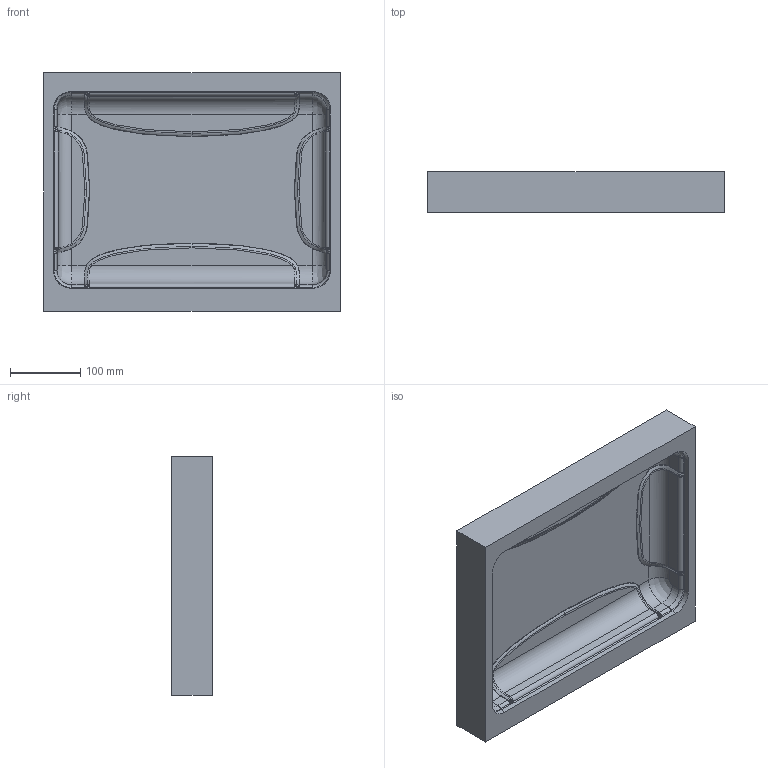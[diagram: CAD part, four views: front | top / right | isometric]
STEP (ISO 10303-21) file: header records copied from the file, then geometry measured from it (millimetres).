
FILE_DESCRIPTION (( 'STEP AP203' ), '1' );
FILE_NAME ('920_Top.STEP', '2012-01-23T22:18:03', ( 'Ben laptop' ), ( 'Microsoft' ), 'SwSTEP 2.0', 'SolidWorks 2011', '' );
FILE_SCHEMA (( 'CONFIG_CONTROL_DESIGN' ));
Length unit declared in the file: inch
Products named in the file (1): 920_Top
Bounding box: 422.72 x 57.84 x 339.83 mm (x, y, z)
Volume: 3026198.1 mm3; surface area: 424771.3 mm2
Topology: 1 solids, 1 shells, 247 faces, 580 edges, 336 vertices
Faces by surface type: bspline 176, cylinder 40, plane 27, cone 4
Entity records: 30348 total; most frequent: CARTESIAN_POINT 25811, ORIENTED_EDGE 1160, DIRECTION 618, EDGE_CURVE 580, VERTEX_POINT 336, B_SPLINE_CURVE_WITH_KNOTS 278, AXIS2_PLACEMENT_3D 252, EDGE_LOOP 248
